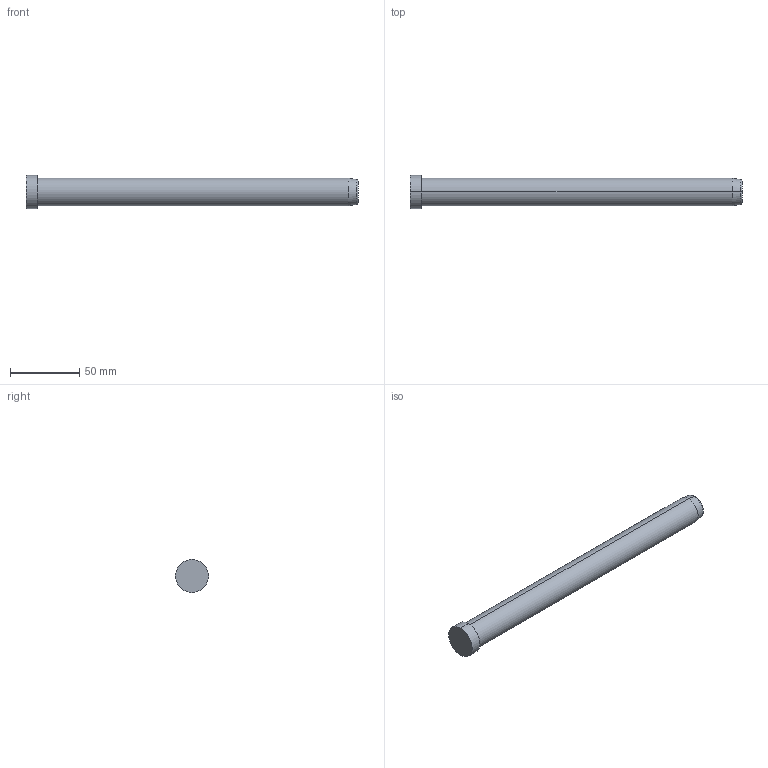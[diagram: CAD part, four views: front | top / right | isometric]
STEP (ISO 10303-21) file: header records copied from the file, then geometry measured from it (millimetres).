
FILE_DESCRIPTION( ( 'STEP AP203' ), '1' );
FILE_NAME( 'D:/Delta 3 D/D01D/20/D01D - 20x240.step', '2003-01-02T23:22:12', ( ' ' ), ( ' ' ), 'XStep 1.0', ' ', ' ' );
FILE_SCHEMA( ( 'CONFIG_CONTROL_DESIGN' ) );
Length unit declared in the file: metre
Products named in the file (1): 1
Bounding box: 240 x 24 x 24 mm (x, y, z)
Volume: 76228.4 mm3; surface area: 16005.8 mm2
Topology: 1 solids, 1 shells, 14 faces, 26 edges, 16 vertices
Faces by surface type: revolution 8, bspline 6
Entity records: 437 total; most frequent: CARTESIAN_POINT 121, ORIENTED_EDGE 52, DIRECTION 50, EDGE_CURVE 26, AXIS2_PLACEMENT_3D 17, EDGE_LOOP 16, VERTEX_POINT 16, CIRCLE 16
